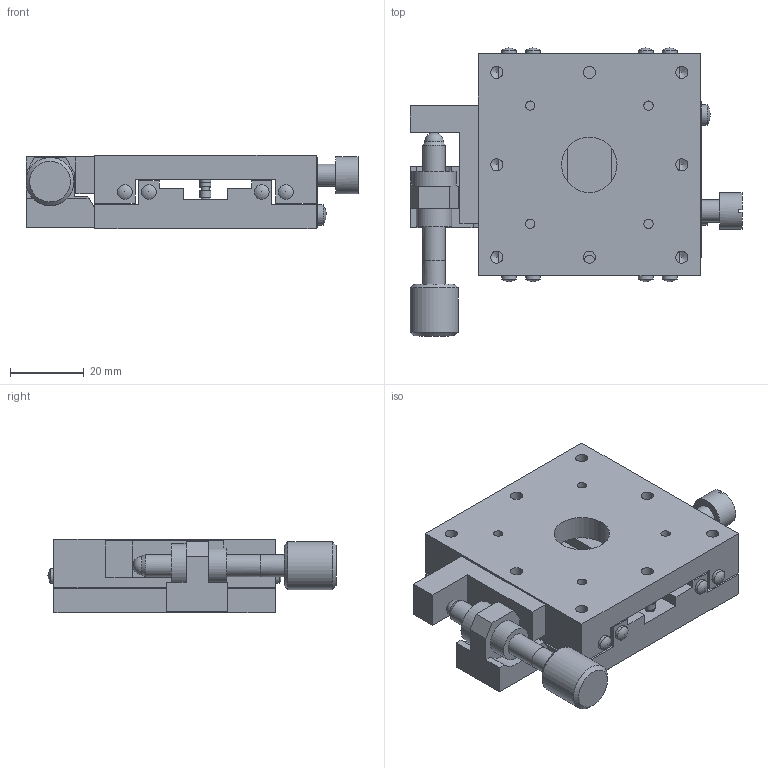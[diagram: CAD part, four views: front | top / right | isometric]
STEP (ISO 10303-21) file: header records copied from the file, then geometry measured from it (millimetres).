
FILE_DESCRIPTION( ( 'STEP AP203' ), '1' );
FILE_NAME( 'C:/3D-Trans/3D_B11-60C1+080716.step', '2008-07-16T06:42:40', ( ' ' ), ( ' ' ), 'XStep 1.0', ' ', ' ' );
FILE_SCHEMA( ( 'CONFIG_CONTROL_DESIGN' ) );
Length unit declared in the file: millimetre
Products named in the file (3): 1; 2; 3
Bounding box: 89.8 x 77.9 x 20 mm (x, y, z)
Volume: 71143.3 mm3; surface area: 28305.1 mm2
Topology: 3 solids, 3 shells, 190 faces, 502 edges, 337 vertices
Faces by surface type: plane 106, cylinder 64, sphere 11, cone 9
Full cylindrical faces by diameter (mm): 2 x2, 2.5 x4, 2.6 x1, 3 x5, 3.2 x1, 3.3 x14, 4 x10, 4.5 x4, 5.6 x2, 6 x4, 8 x4, 9.5 x1, 10 x1, 12 x1, 13 x1, 15 x1
Entity records: 5299 total; most frequent: CARTESIAN_POINT 965, DIRECTION 877, ORIENTED_EDGE 732, EDGE_CURVE 366, AXIS2_PLACEMENT_3D 325, EDGE_LOOP 315, VERTEX_POINT 283, FACE_OUTER_BOUND 246
